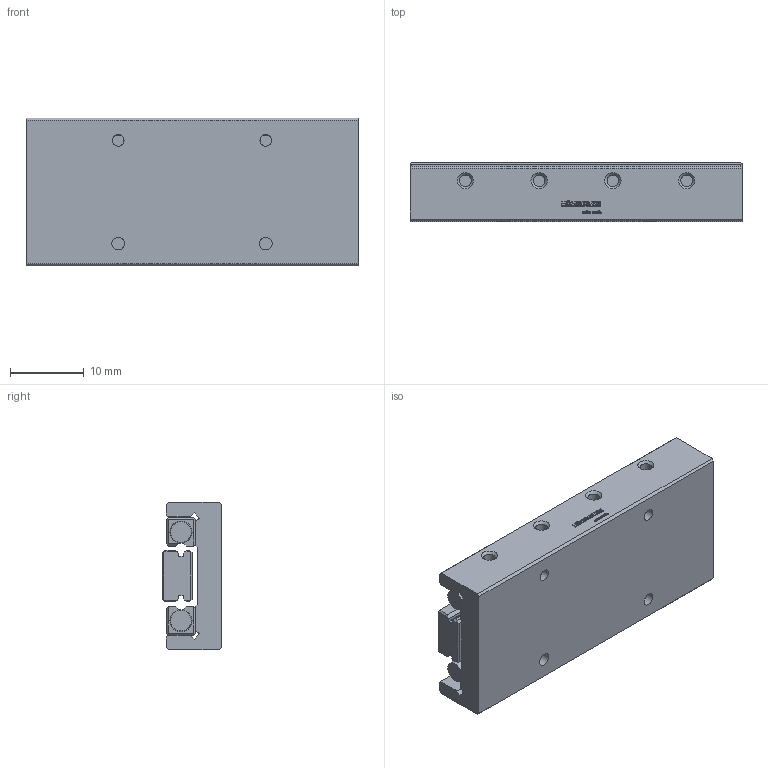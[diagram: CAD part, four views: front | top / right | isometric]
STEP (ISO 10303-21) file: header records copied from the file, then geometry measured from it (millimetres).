
FILE_DESCRIPTION(/* description */ ('STEP AP214'),/* implementation_level */ '2;1');
FILE_NAME(/* name */ 'ND 1-45.25(0)',/* time_stamp */ '2025-04-22T17:42:15+02:00',/* author */ ('License CC BY-ND 4.0'),/* organization */ ('CADENAS'),/* preprocessor_version */ 'ST-DEVELOPER v19.3',/* originating_system */ 'PARTsolutions',/* authorisation */ ' ');
FILE_SCHEMA (('AUTOMOTIVE_DESIGN {1 0 10303 214 3 1 1}'));
Length unit declared in the file: millimetre
Products named in the file (4): ND 1-45.25(0); ND 1-45.25+SQ+OF_(0)_1; ND 1-45.25+SQ+OF_(0)_2; ND 1-45.25+SQ+OF_(0)_3
Assembly tree (4 placements, depth 2):
  ND 1-45.25(0)
    ND 1-45.25+SQ+OF_(0)_1
    ND 1-45.25+SQ+OF_(0)_2
    ND 1-45.25+SQ+OF_(0)_3  x2
Bounding box: 45 x 8 x 20 mm (x, y, z)
Volume: 5900.5 mm3; surface area: 5943.7 mm2
Topology: 4 solids, 4 shells, 649 faces, 1796 edges, 1186 vertices
Faces by surface type: cylinder 326, plane 295, cone 24, torus 4
Full cylindrical faces by diameter (mm): 1.49 x4, 1.567 x6, 1.57 x8, 1.713 x2, 2.113 x4, 3 x8
Entity records: 19371 total; most frequent: DIRECTION 3496, CARTESIAN_POINT 3332, ORIENTED_EDGE 3252, EDGE_CURVE 1626, AXIS2_PLACEMENT_3D 1265, VERTEX_POINT 1101, LINE 966, VECTOR 966
